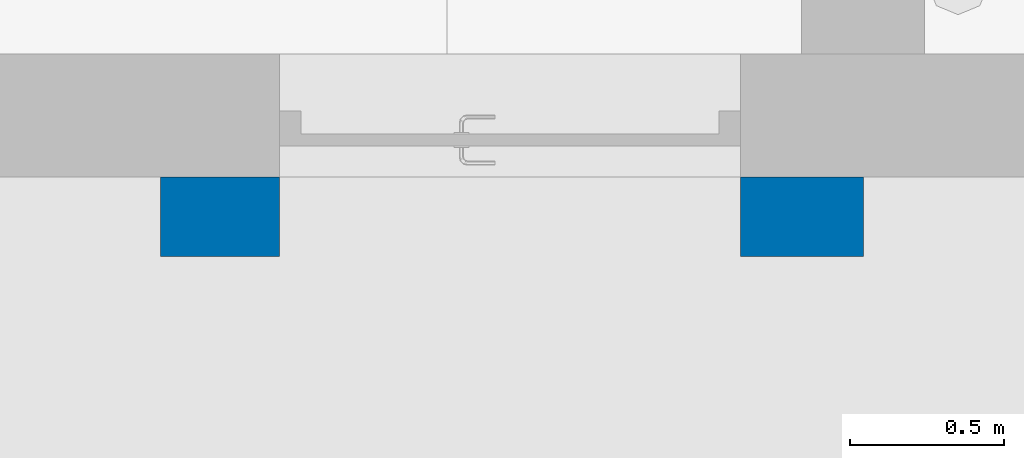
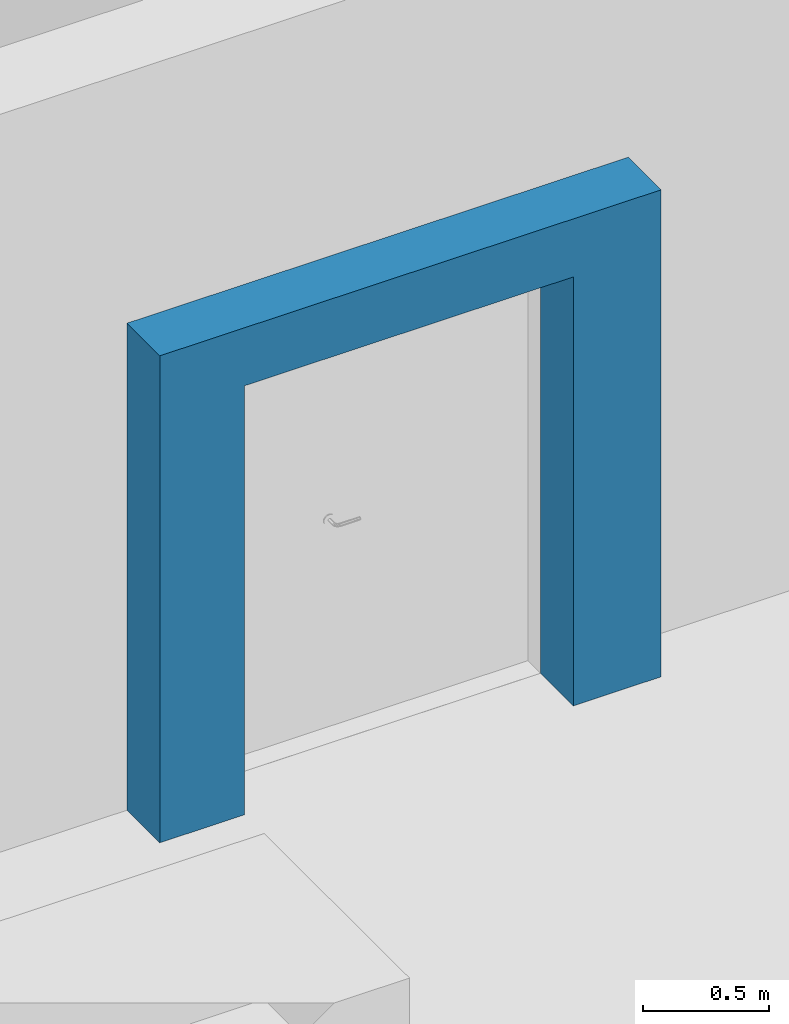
# One storey, part 113 of 301: 1 wall, 1 opening.
"""IFC2X3 building model written with IfcOpenShell, lengths in millimetres."""

from ifc_helpers import new_model, entity, si_unit, converted_unit, derived_unit, money_unit, direction, frame, origin_with_axes, place, context, subcontext, project, spatial, faceted_brep, material, type_object, element, save


model = new_model("IFC2X3")

# Units and contexts
model_context = context("Model", 3, precision=0.01, world=origin_with_axes(), true_north=direction((0.0, 1.0)))
body_context = subcontext(model_context, "Body", "Model", "MODEL_VIEW")
ifc_project = project(units=[si_unit("LENGTHUNIT", "METRE", prefix="MILLI"), si_unit("AREAUNIT", "SQUARE_METRE"), si_unit("VOLUMEUNIT", "CUBIC_METRE"), converted_unit("PLANEANGLEUNIT", "DEGREE", entity("IfcPlaneAngleMeasure", 0.0174532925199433), si_unit("PLANEANGLEUNIT", "RADIAN"), dimensions=[0, 0, 0, 0, 0, 0, 0]), money_unit("EUR"), converted_unit("TIMEUNIT", "Year", entity("IfcTimeMeasure", 31557600.0), si_unit("TIMEUNIT", "SECOND"), dimensions=[0, 0, 1, 0, 0, 0, 0]), si_unit("MASSUNIT", "GRAM", prefix="KILO"), si_unit("THERMODYNAMICTEMPERATUREUNIT", "DEGREE_CELSIUS"), si_unit("LUMINOUSINTENSITYUNIT", "LUMEN"), si_unit("ENERGYUNIT", "JOULE", prefix="MEGA"), derived_unit("THERMALCONDUCTANCEUNIT", [(si_unit("POWERUNIT", "WATT"), 1), (si_unit("LENGTHUNIT", "METRE"), -1), (si_unit("THERMODYNAMICTEMPERATUREUNIT", "KELVIN"), -1)]), derived_unit("SPECIFICHEATCAPACITYUNIT", [(si_unit("ENERGYUNIT", "JOULE"), 1), (si_unit("MASSUNIT", "GRAM", prefix="KILO"), -1), (si_unit("THERMODYNAMICTEMPERATUREUNIT", "KELVIN"), -1)]), derived_unit("MASSDENSITYUNIT", [(si_unit("MASSUNIT", "GRAM", prefix="KILO"), 1), (si_unit("VOLUMEUNIT", "CUBIC_METRE"), -1)])], contexts=[model_context])

# Site, building, storey
site_placement = place(None, frame((0.0, 0.0, 8650.0), z_axis=(0.0, 0.0, 1.0), x_axis=(1.0, 0.0, 0.0)))
site = spatial("IfcSite", under=ifc_project, at=site_placement, Name="43301:001:0844", CompositionType="ELEMENT")
building_placement = place(site_placement, origin_with_axes())
building = spatial("IfcBuilding", under=site, at=building_placement, Name="Kuressaare Ametikooli tuulikute mehaanikute õppekorpus", CompositionType="ELEMENT")
storey_placement = place(building_placement, origin_with_axes())
storey = spatial("IfcBuildingStorey", under=building, at=storey_placement, Name="1.korrus", CompositionType="ELEMENT", Elevation=0.0)

# Wall, opening
ifc_material = material(Name="GENEERILINE - KONSTRUKTRIOON")
wall_type = type_object("IfcWallType", Name="GENEERILINE - KONSTRUKTRIOON 260", PredefinedType="NOTDEFINED")
wall_placement = place(storey_placement, frame((95748.84763454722, 25783.06892395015, 0.0), z_axis=(0.0, 0.0, 1.0), x_axis=(-1.0, 0.0, 0.0)))
wall = element("IfcWall", 1, at=wall_placement, inside=storey, type_object=wall_type, material=ifc_material, context=body_context, shape_type="Brep", body=[
    faceted_brep([(401.0220316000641, 0.0, 2070.0), (1901.022031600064, 0.0, 2070.0), (1901.022031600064, 0.0, 0.0), (2288.727540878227, 0.0, 0.0), (2288.727540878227, 0.0, 2350.0), (0.0, 0.0, 2350.0), (0.0, 0.0, 0.0), (401.0220316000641, 0.0, 0.0), (1901.022031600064, 260.0000000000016, 2070.0), (401.0220316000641, 260.0000000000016, 2070.0), (1901.022031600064, 260.0000000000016, 0.0), (2288.727540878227, 260.0000000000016, 0.0), (2288.727540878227, 260.0000000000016, 2350.0), (0.0, 260.0000000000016, 2350.0), (0.0, 260.0000000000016, 0.0), (401.0220316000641, 260.0000000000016, 0.0)], [[[0, 1, 2, 3, 4, 5, 6, 7]], [[8, 1, 0, 9]], [[10, 2, 1, 8]], [[3, 2, 10, 11]], [[4, 3, 11, 12]], [[13, 5, 4, 12]], [[5, 13, 14, 6]], [[14, 15, 7, 6]], [[9, 0, 7, 15]], [[8, 9, 15, 14, 13, 12, 11, 10]]]),
])
opening_placement = place(wall_placement, frame((95748.84763454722, 25783.0689239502, 0.0), z_axis=(0.0, 0.0, 1.0), x_axis=(-1.0, 0.0, 0.0)))
element("IfcOpeningElement", 2, at=opening_placement, cuts=wall, Name="ava", context=body_context, shape_type="Brep", body=[
    faceted_brep([(95347.82560294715, 26043.0689239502, 0.0), (95347.82560294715, 26043.0689239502, 2070.0), (95347.82560294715, 25263.0689239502, 2070.0), (95347.82560294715, 25263.0689239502, 0.0), (93847.82560294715, 26043.0689239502, 0.0), (93847.82560294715, 26043.0689239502, 2070.0), (93847.82560294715, 25263.0689239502, 2070.0), (93847.82560294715, 25263.0689239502, 0.0)], [[[0, 1, 2, 3]], [[0, 4, 5, 1]], [[1, 5, 6, 2]], [[3, 2, 6, 7]], [[4, 0, 3, 7]], [[5, 4, 7, 6]]]),
])

save(model, "model.ifc")
